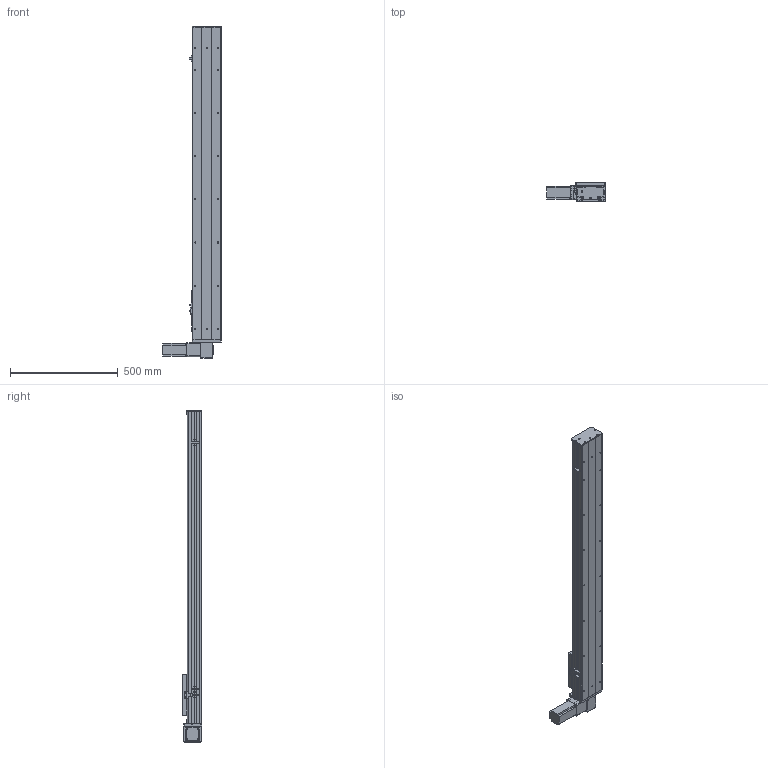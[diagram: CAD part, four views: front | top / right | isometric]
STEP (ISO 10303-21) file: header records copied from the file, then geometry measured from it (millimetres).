
FILE_DESCRIPTION (( 'STEP AP203' ), '1' );
FILE_NAME ('Y135CB-D90-S1150-BD-P400W.STEP', '2020-02-19T03:34:29', ( '微软用户' ), ( '微软中国' ), 'SwSTEP 2.0', 'SolidWorks 2017', '' );
FILE_SCHEMA (( 'CONFIG_CONTROL_DESIGN' ));
Length unit declared in the file: millimetre
Products named in the file (16): 0B-埴倛裔啣; Y100-135俋离換覜ん--; 0B-源倛裔啣; Y135C-陔俋离換覜結え-; san松下电机400不带刹车----; 5C--俋欶; 5CB --掛极耜裔啣-; C-雄赽釱--; C-詩湍揤踡え-陔; Y10B--々湍喘謫眊--666; 135CB--詩湍-CE; Y135CB-耜裔; 0B-薊粣ん眊; Y135CB-D90-S1150-BD-P400W; 135CB---遴掛极.-; 35CB---喘謫眊楊擘啣
Assembly tree (19 placements, depth 2):
  Y135CB-D90-S1150-BD-P400W
    Y135CB-耜裔
    135CB---遴掛极.-
    35CB---喘謫眊楊擘啣
    0B-埴倛裔啣
    0B-源倛裔啣
    san松下电机400不带刹车----
    5CB --掛极耜裔啣-  x2
    C-詩湍揤踡え-陔  x2
    135CB--詩湍-CE
    Y100-135俋离換覜ん--  x3
    Y135C-陔俋离換覜結え-
    5C--俋欶
    C-雄赽釱--
    Y10B--々湍喘謫眊--666
    0B-薊粣ん眊
Bounding box: 272 x 91 x 1538 mm (x, y, z)
Volume: 4776272.1 mm3; surface area: 1828901.7 mm2
Topology: 19 solids, 19 shells, 859 faces, 2284 edges, 1512 vertices
Faces by surface type: cylinder 428, plane 415, cone 16
Entity records: 26208 total; most frequent: DIRECTION 4368, CARTESIAN_POINT 4291, ORIENTED_EDGE 4044, EDGE_CURVE 2022, AXIS2_PLACEMENT_3D 1601, VERTEX_POINT 1340, LINE 1166, VECTOR 1166
